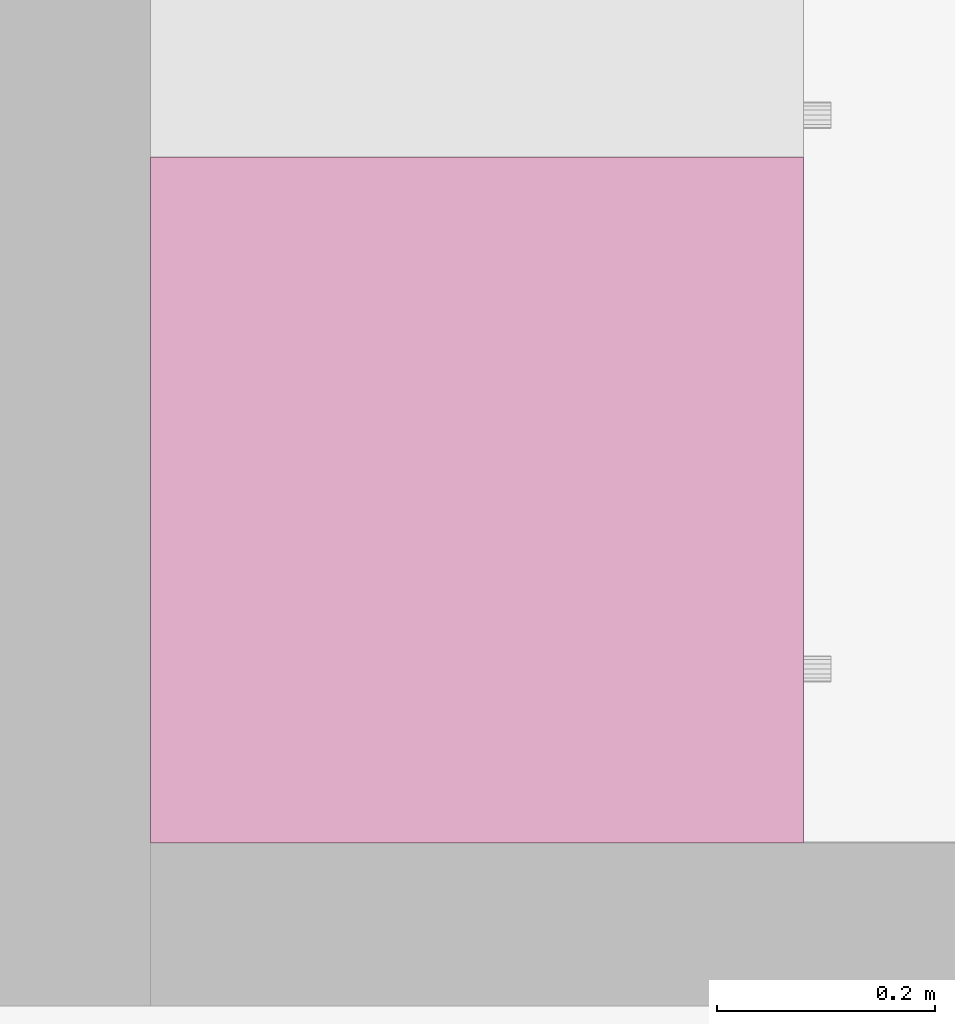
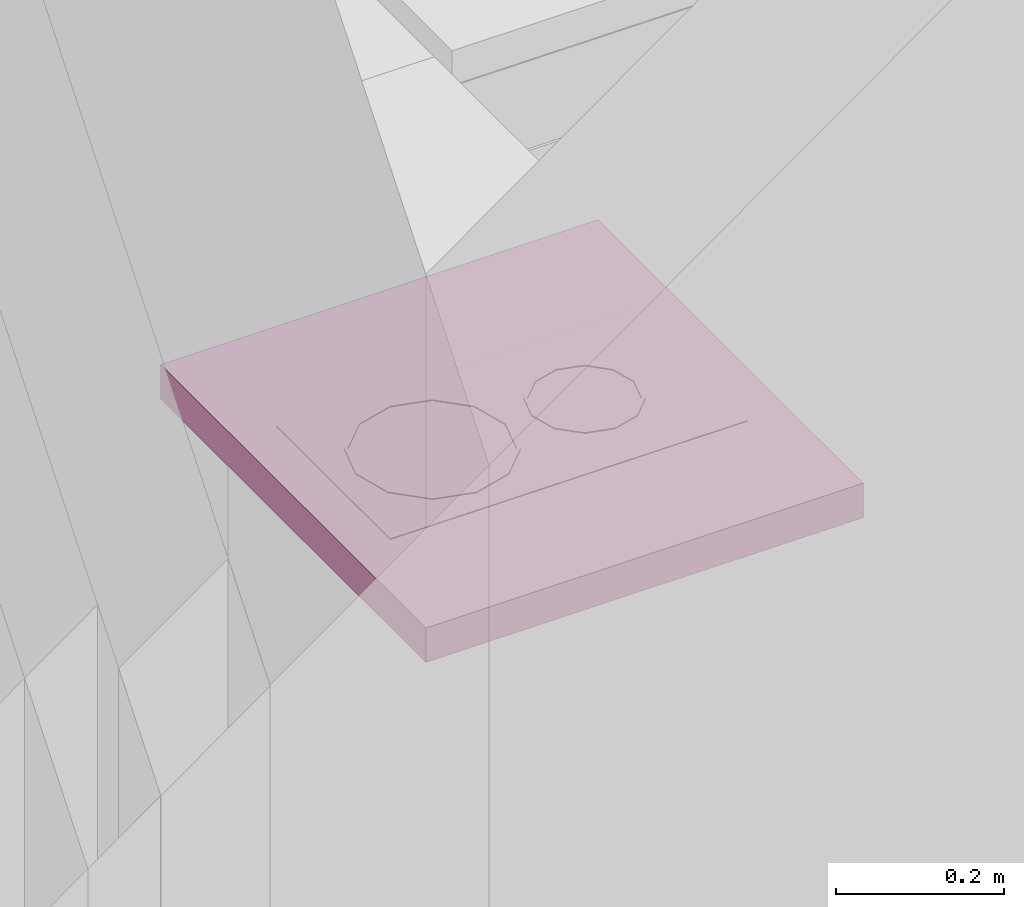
# One storey, part 162 of 165: 1 furnishing.
"""IFC2X3 building model written with IfcOpenShell, lengths in millimetres."""

from ifc_helpers import new_model, entity, si_unit, converted_unit, money_unit, direction, frame, origin_with_axes, place, context, subcontext, project, spatial, faceted_brep, source, transform, mapped, material, material_list, type_object, element, save


model = new_model("IFC2X3")

# Units and contexts
model_context = context("Model", 3, precision=1e-05, world=origin_with_axes(), true_north=direction((0.0, 1.0)))
body_context = subcontext(model_context, "Body", "Model", "MODEL_VIEW")
ifc_project = project(units=[si_unit("LENGTHUNIT", "METRE", prefix="MILLI"), si_unit("AREAUNIT", "SQUARE_METRE"), si_unit("VOLUMEUNIT", "CUBIC_METRE"), converted_unit("PLANEANGLEUNIT", "DEGREE", entity("IfcPlaneAngleMeasure", 0.0174532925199), si_unit("PLANEANGLEUNIT", "RADIAN"), dimensions=[0, 0, 0, 0, 0, 0, 0]), si_unit("SOLIDANGLEUNIT", "STERADIAN"), money_unit("USD"), converted_unit("TIMEUNIT", "Year", entity("IfcTimeMeasure", 31556926.0), si_unit("TIMEUNIT", "SECOND"), dimensions=[0, 0, 0, 0, 0, 0, 0]), si_unit("MASSUNIT", "GRAM"), si_unit("THERMODYNAMICTEMPERATUREUNIT", "DEGREE_CELSIUS"), si_unit("LUMINOUSINTENSITYUNIT", "LUMEN")], contexts=[model_context])

# Site, building, storey
site_placement = place(None, origin_with_axes())
site = spatial("IfcSite", under=ifc_project, at=site_placement, Name="Site", CompositionType="ELEMENT")
building_placement = place(site_placement, origin_with_axes())
building = spatial("IfcBuilding", under=site, at=building_placement, Name="Building", CompositionType="ELEMENT")
storey_placement = place(building_placement, frame((0.0, 0.0, 6300.0), z_axis=(0.0, 0.0, 1.0), x_axis=(1.0, 0.0, 0.0)))
storey = spatial("IfcBuildingStorey", under=building, at=storey_placement, Name="4KORRUS", CompositionType="ELEMENT", Elevation=6300.0)

# Furnishing
ifc_material = material(Name="Background")
ifc_material_list = material_list([ifc_material])
furnishing_element_type = type_object("IfcFurnishingElementType", Name="Built-in Cooktops 19")
shared_shape = source(origin_with_axes(), body_context, "Body", "Brep", [
    faceted_brep([(0.0, 0.0, 850.0), (0.0, 0.0, 900.0), (-629.977, 0.0, 900.0), (-629.977, 0.0, 850.0), (0.0, 600.0, 850.0), (0.0, 600.0, 900.0), (-629.977, 600.0, 900.0), (-629.977, 600.0, 850.0)], [[[0, 1, 2, 3]], [[4, 5, 1, 0]], [[1, 5, 6, 2]], [[3, 2, 6, 7]], [[0, 3, 7, 4]], [[7, 6, 5, 4]]]),
    faceted_brep([(-179.989, 55.0, 900.0), (-449.989, 55.0, 900.0), (-449.989, 545.0, 900.0), (-179.989, 545.0, 900.0), (-179.989, 55.0, 900.8), (-449.989, 55.0, 900.8), (-449.989, 545.0, 900.8), (-179.989, 545.0, 900.8), (-186.794, 61.806, 902.0), (-443.183, 61.806, 902.0), (-443.183, 538.194, 902.0), (-186.794, 538.194, 902.0)], [[[0, 1, 2, 3]], [[0, 4, 5, 1]], [[1, 5, 6, 2]], [[2, 6, 7, 3]], [[3, 7, 4, 0]], [[4, 8, 9, 5]], [[5, 9, 10, 6]], [[6, 10, 11, 7]], [[7, 11, 8, 4]], [[10, 9, 8, 11]]]),
    faceted_brep([(-209.989, 409.27, 902.0), (-209.989, 409.27, 903.0), (-224.056, 356.77, 903.0), (-224.056, 356.77, 902.0), (-224.056, 461.77, 902.0), (-224.056, 461.77, 903.0), (-262.489, 500.203, 903.0), (-314.989, 514.27, 903.0), (-367.489, 500.203, 903.0), (-405.921, 461.77, 903.0), (-419.989, 409.27, 903.0), (-405.921, 356.77, 903.0), (-367.489, 318.337, 903.0), (-314.989, 304.27, 903.0), (-262.489, 318.337, 903.0), (-214.989, 409.27, 903.0), (-228.386, 359.27, 903.0), (-264.989, 322.667, 903.0), (-314.989, 309.27, 903.0), (-364.989, 322.667, 903.0), (-401.591, 359.27, 903.0), (-414.989, 409.27, 903.0), (-401.591, 459.27, 903.0), (-364.989, 495.873, 903.0), (-314.989, 509.27, 903.0), (-264.989, 495.873, 903.0), (-228.386, 459.27, 903.0), (-262.489, 318.337, 902.0), (-314.989, 304.27, 902.0), (-367.489, 318.337, 902.0), (-405.921, 356.77, 902.0), (-419.989, 409.27, 902.0), (-405.921, 461.77, 902.0), (-367.489, 500.203, 902.0), (-314.989, 514.27, 902.0), (-262.489, 500.203, 902.0), (-214.989, 409.27, 902.0), (-228.386, 459.27, 902.0), (-264.989, 495.873, 902.0), (-314.989, 509.27, 902.0), (-364.989, 495.873, 902.0), (-401.591, 459.27, 902.0), (-414.989, 409.27, 902.0), (-401.591, 359.27, 902.0), (-364.989, 322.667, 902.0), (-314.989, 309.27, 902.0), (-264.989, 322.667, 902.0), (-228.386, 359.27, 902.0)], [[[0, 1, 2, 3]], [[4, 5, 1, 0]], [[1, 5, 6, 7, 8, 9, 10, 11, 12, 13, 14, 2], [15, 16, 17, 18, 19, 20, 21, 22, 23, 24, 25, 26]], [[3, 2, 14, 27]], [[0, 3, 27, 28, 29, 30, 31, 32, 33, 34, 35, 4], [36, 37, 38, 39, 40, 41, 42, 43, 44, 45, 46, 47]], [[35, 6, 5, 4]], [[34, 7, 6, 35]], [[33, 8, 7, 34]], [[32, 9, 8, 33]], [[31, 10, 9, 32]], [[30, 11, 10, 31]], [[29, 12, 11, 30]], [[28, 13, 12, 29]], [[27, 14, 13, 28]], [[47, 16, 15, 36]], [[46, 17, 16, 47]], [[45, 18, 17, 46]], [[44, 19, 18, 45]], [[43, 20, 19, 44]], [[42, 21, 20, 43]], [[41, 22, 21, 42]], [[40, 23, 22, 41]], [[39, 24, 23, 40]], [[38, 25, 24, 39]], [[37, 26, 25, 38]], [[36, 15, 26, 37]]]),
    faceted_brep([(-242.489, 200.53, 902.0), (-242.489, 200.53, 903.0), (-252.202, 164.28, 903.0), (-252.202, 164.28, 902.0), (-252.202, 236.78, 902.0), (-252.202, 236.78, 903.0), (-278.739, 263.317, 903.0), (-314.989, 273.03, 903.0), (-351.239, 263.317, 903.0), (-377.775, 236.78, 903.0), (-387.489, 200.53, 903.0), (-377.775, 164.28, 903.0), (-351.239, 137.743, 903.0), (-314.989, 128.03, 903.0), (-278.739, 137.743, 903.0), (-247.489, 200.53, 903.0), (-256.532, 166.78, 903.0), (-281.239, 142.073, 903.0), (-314.989, 133.03, 903.0), (-348.739, 142.073, 903.0), (-373.445, 166.78, 903.0), (-382.489, 200.53, 903.0), (-373.445, 234.28, 903.0), (-348.739, 258.987, 903.0), (-314.989, 268.03, 903.0), (-281.239, 258.987, 903.0), (-256.532, 234.28, 903.0), (-278.739, 137.743, 902.0), (-314.989, 128.03, 902.0), (-351.239, 137.743, 902.0), (-377.775, 164.28, 902.0), (-387.489, 200.53, 902.0), (-377.775, 236.78, 902.0), (-351.239, 263.317, 902.0), (-314.989, 273.03, 902.0), (-278.739, 263.317, 902.0), (-247.489, 200.53, 902.0), (-256.532, 234.28, 902.0), (-281.239, 258.987, 902.0), (-314.989, 268.03, 902.0), (-348.739, 258.987, 902.0), (-373.445, 234.28, 902.0), (-382.489, 200.53, 902.0), (-373.445, 166.78, 902.0), (-348.739, 142.073, 902.0), (-314.989, 133.03, 902.0), (-281.239, 142.073, 902.0), (-256.532, 166.78, 902.0)], [[[0, 1, 2, 3]], [[4, 5, 1, 0]], [[1, 5, 6, 7, 8, 9, 10, 11, 12, 13, 14, 2], [15, 16, 17, 18, 19, 20, 21, 22, 23, 24, 25, 26]], [[3, 2, 14, 27]], [[0, 3, 27, 28, 29, 30, 31, 32, 33, 34, 35, 4], [36, 37, 38, 39, 40, 41, 42, 43, 44, 45, 46, 47]], [[35, 6, 5, 4]], [[34, 7, 6, 35]], [[33, 8, 7, 34]], [[32, 9, 8, 33]], [[31, 10, 9, 32]], [[30, 11, 10, 31]], [[29, 12, 11, 30]], [[28, 13, 12, 29]], [[27, 14, 13, 28]], [[47, 16, 15, 36]], [[46, 17, 16, 47]], [[45, 18, 17, 46]], [[44, 19, 18, 45]], [[43, 20, 19, 44]], [[42, 21, 20, 43]], [[41, 22, 21, 42]], [[40, 23, 22, 41]], [[39, 24, 23, 40]], [[38, 25, 24, 39]], [[37, 26, 25, 38]], [[36, 15, 26, 37]]]),
])
furnishing_placement = place(storey_placement, frame((6609.70329669, -10356.6268342, 0.0), z_axis=(0.0, 0.0, 1.0), x_axis=(0.0, 1.0, 0.0)))
element("IfcFurnishingElement", 1, at=furnishing_placement, inside=storey, type_object=furnishing_element_type, material=ifc_material_list, Name="FU - 007", context=body_context, shape_type="MappedRepresentation", body=[
    mapped(shared_shape, transform((0.0, 0.0, 0.0))),
])

save(model, "model.ifc")
